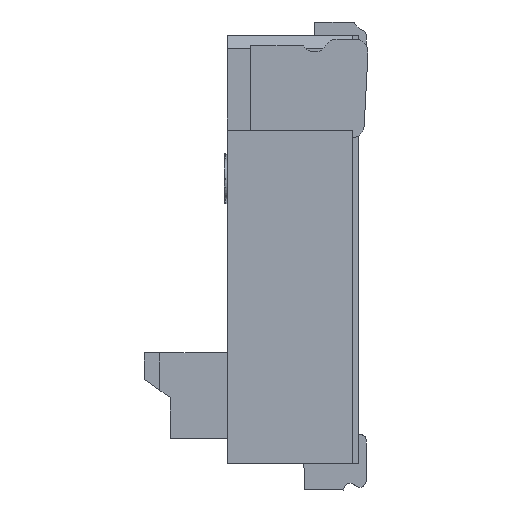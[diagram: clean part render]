
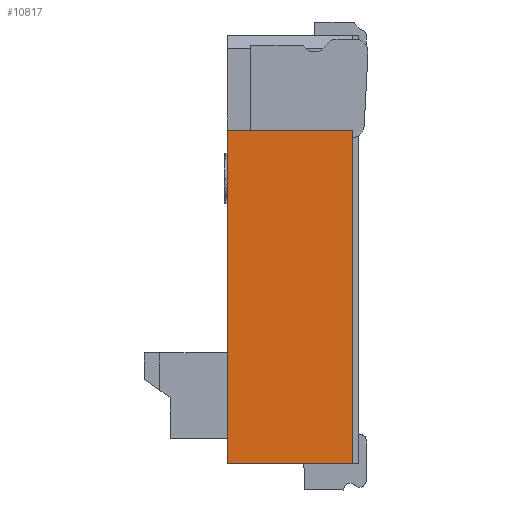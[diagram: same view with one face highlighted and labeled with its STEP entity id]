
A CAD part, left-side view. The second image highlights one B-rep face of the part: STEP entity #10817.
In plain terms, the highlighted planar face has unit normal (-1, 0, 0).
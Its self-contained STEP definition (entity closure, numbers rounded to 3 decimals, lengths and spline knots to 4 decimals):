
#1469 = VERTEX_POINT ( 'NONE', #89406 ) ;
#2376 = VECTOR ( 'NONE', #83474, 1000. ) ;
#9009 = ORIENTED_EDGE ( 'NONE', *, *, #100104, .F. ) ;
#9453 = LINE ( 'NONE', #10625, #110546 ) ;
#10229 = VECTOR ( 'NONE', #102263, 1000. ) ;
#10625 = CARTESIAN_POINT ( 'NONE',  ( 9.1054, 0.5703, -0.88 ) ) ;
#10817 = ADVANCED_FACE ( 'NONE', ( #89860 ), #52786, .T. ) ;
#11218 = VECTOR ( 'NONE', #67164, 1000. ) ;
#18452 = EDGE_CURVE ( 'NONE', #91413, #106091, #75813, .T. ) ;
#20045 = DIRECTION ( 'NONE',  ( 0., -1., 0. ) ) ;
#26133 = EDGE_CURVE ( 'NONE', #1469, #91413, #9453, .T. ) ;
#30480 = EDGE_CURVE ( 'NONE', #81270, #1469, #47540, .T. ) ;
#31248 = CARTESIAN_POINT ( 'NONE',  ( 9.1054, 0.0703, -3.41 ) ) ;
#36269 = DIRECTION ( 'NONE',  ( 0., 0., 1. ) ) ;
#37504 = CARTESIAN_POINT ( 'NONE',  ( 9.1054, 0.1203, -3.41 ) ) ;
#47540 = LINE ( 'NONE', #49870, #10229 ) ;
#49302 = CARTESIAN_POINT ( 'NONE',  ( 9.1054, 0.1203, -0.96 ) ) ;
#49870 = CARTESIAN_POINT ( 'NONE',  ( 9.1054, 1.0703, -3.41 ) ) ;
#50969 = CARTESIAN_POINT ( 'NONE',  ( 9.1054, 0.1203, -0.88 ) ) ;
#52786 = PLANE ( 'NONE',  #92330 ) ;
#54513 = DIRECTION ( 'NONE',  ( -1., 0., 0. ) ) ;
#65656 = ORIENTED_EDGE ( 'NONE', *, *, #18452, .F. ) ;
#66565 = ORIENTED_EDGE ( 'NONE', *, *, #26133, .F. ) ;
#67164 = DIRECTION ( 'NONE',  ( 0., 1., 0. ) ) ;
#67301 = EDGE_LOOP ( 'NONE', ( #78833, #9009, #65656, #66565 ) ) ;
#75813 = LINE ( 'NONE', #49302, #2376 ) ;
#76937 = CARTESIAN_POINT ( 'NONE',  ( 9.1054, 1.0703, -3.41 ) ) ;
#78833 = ORIENTED_EDGE ( 'NONE', *, *, #30480, .F. ) ;
#81023 = CARTESIAN_POINT ( 'NONE',  ( 9.1054, 0.5703, -2.185 ) ) ;
#81270 = VERTEX_POINT ( 'NONE', #76937 ) ;
#83474 = DIRECTION ( 'NONE',  ( 0., 0., -1. ) ) ;
#89406 = CARTESIAN_POINT ( 'NONE',  ( 9.1054, 1.0703, -0.88 ) ) ;
#89860 = FACE_OUTER_BOUND ( 'NONE', #67301, .T. ) ;
#91413 = VERTEX_POINT ( 'NONE', #50969 ) ;
#92330 = AXIS2_PLACEMENT_3D ( 'NONE', #81023, #54513, #36269 ) ;
#100104 = EDGE_CURVE ( 'NONE', #106091, #81270, #103071, .T. ) ;
#102263 = DIRECTION ( 'NONE',  ( 0., 0., 1. ) ) ;
#103071 = LINE ( 'NONE', #31248, #11218 ) ;
#106091 = VERTEX_POINT ( 'NONE', #37504 ) ;
#110546 = VECTOR ( 'NONE', #20045, 1000. ) ;
